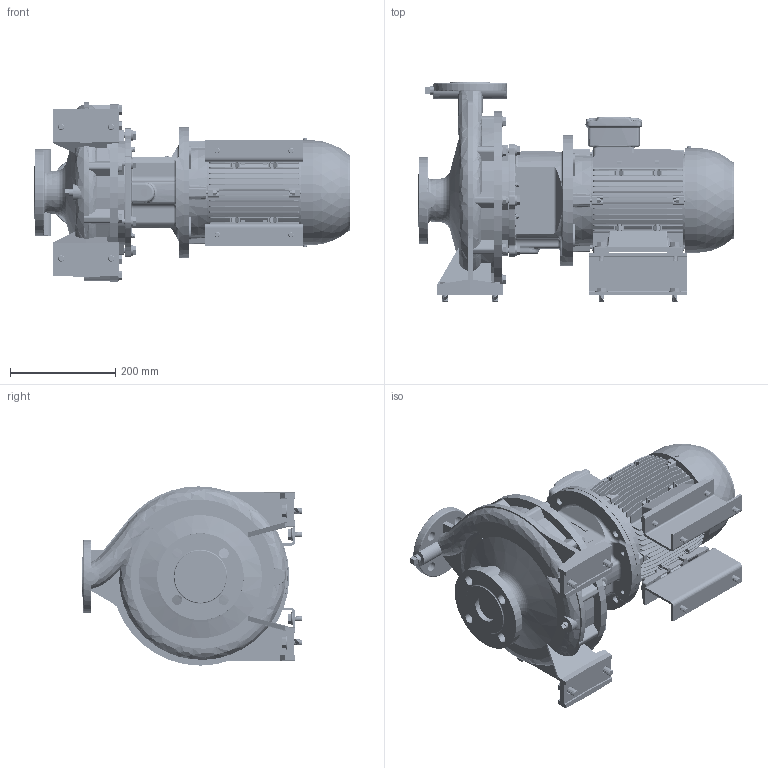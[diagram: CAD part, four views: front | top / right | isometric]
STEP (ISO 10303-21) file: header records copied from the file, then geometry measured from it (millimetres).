
FILE_DESCRIPTION (( 'STEP AP214' ), '1' );
FILE_NAME ('GSD4 32-250_2.2_(100L)_W21.STEP', '2026-06-18T05:24:16', ( '' ), ( '' ), 'SwSTEP 2.0', 'SolidWorks 2024', '' );
FILE_SCHEMA (( 'AUTOMOTIVE_DESIGN' ));
Length unit declared in the file: millimetre
Products named in the file (9): Parametric bolt_SFT-A253B; 100L ALIE3_W21T_B35; Parametric bolt_SFT-A249B; 32-250-100L_ﾃﾞﾌｫﾙﾄ; Parametric Flat Washer_M12; GSD4 32-250_2.2_(100L)_W21; 140 x 80 - 271472220; Parametric Flat Washer_M10; Parametric bolt_SFT-A299B
Assembly tree (28 placements, depth 2):
  GSD4 32-250_2.2_(100L)_W21
    32-250-100L_ﾃﾞﾌｫﾙﾄ
    100L ALIE3_W21T_B35
    140 x 80 - 271472220  x2
    Parametric bolt_SFT-A253B  x4
    Parametric bolt_SFT-A249B  x4
    Parametric bolt_SFT-A299B  x4
    Parametric Flat Washer_M10  x8
    Parametric Flat Washer_M12  x4
Bounding box: 602.1 x 418 x 340.5 mm (x, y, z)
Volume: 18437576.7 mm3; surface area: 1532643.6 mm2
Topology: 36 solids, 36 shells, 4435 faces, 11532 edges, 7411 vertices
Faces by surface type: plane 2422, cylinder 1181, torus 312, cone 252, bspline 250, sphere 18
Entity records: 185043 total; most frequent: CARTESIAN_POINT 91154, ORIENTED_EDGE 20312, DIRECTION 18219, EDGE_CURVE 10156, VERTEX_POINT 6531, LINE 6263, VECTOR 6263, AXIS2_PLACEMENT_3D 5978
